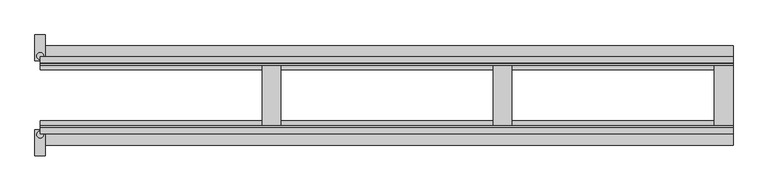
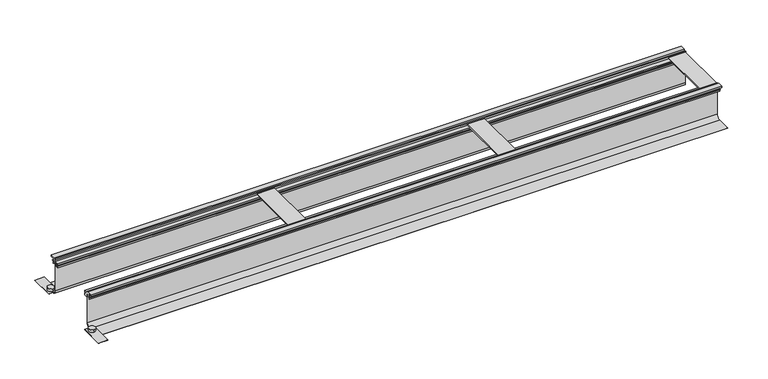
"""IFC4 building model written with IfcOpenShell, lengths in millimetres: proxy geometry, Electrical_Installation_Hager_BKF-Trunking-System-With-Flexible-Screed-Casing-For-Dry-Cleaned-Floors : Nominal Size 250  Length 2.4 m."""

from ifc_helpers import new_model, si_unit, point, frame, frame_2d, origin, place, context, project, spatial, polyline, circle_curve, trimmed, segment, composite_curve, outline, extrude, source, transform, mapped, element, save


def electrical_fixtures_4151214e(model_context):
    return source(origin(), model_context, "Body", "SweptSolid", [
        extrude(outline(composite_curve([segment(trimmed(circle_curve(frame_2d((0.0, 136.1652527)), 12.0), [point((0.0, 148.1652527))], [point((0.0, 124.1652527))], False, "CARTESIAN"), True, "CONTINUOUS"), segment(trimmed(circle_curve(frame_2d((0.0, 136.1652527)), 12.0), [point((0.0, 124.1652527))], [point((0.0, 148.1652527))], False, "CARTESIAN"), True, "CONTINUOUS")], self_intersect=False)), frame((0.0, 0.0, -129.7), z_axis=(0.0, 0.0, 1.0), x_axis=(1.0, 0.0, 0.0)), (0.0, 0.0, 1.0), 10.7),
        extrude(outline(composite_curve([segment(trimmed(circle_curve(frame_2d((0.0, -136.112037)), 12.0), [point((0.0, -124.112037))], [point((0.0, -148.112037))], False, "CARTESIAN"), True, "CONTINUOUS"), segment(trimmed(circle_curve(frame_2d((0.0, -136.112037)), 12.0), [point((0.0, -148.112037))], [point((0.0, -124.112037))], False, "CARTESIAN"), True, "CONTINUOUS")], self_intersect=False)), frame((0.0, 0.0, -129.7), z_axis=(0.0, 0.0, 1.0), x_axis=(1.0, 0.0, 0.0)), (0.0, 0.0, 1.0), 10.7),
        extrude(outline(polyline([(18.0, 119.1), (-18.0, 119.1), (-18.0, 209.1), (18.0, 209.1), (18.0, 119.1)])), frame((0.0, 0.0, -131.2), z_axis=(0.0, 0.0, 1.0), x_axis=(1.0, 0.0, 0.0)), (0.0, 0.0, 1.0), 1.5),
        extrude(outline(polyline([(18.0, -209.1), (-18.0, -209.1), (-18.0, -119.1), (18.0, -119.1), (18.0, -209.1)])), frame((0.0, 0.0, -131.2), z_axis=(0.0, 0.0, 1.0), x_axis=(1.0, 0.0, 0.0)), (0.0, 0.0, 1.0), 1.5),
        extrude(outline(polyline([(2400.0, 105.0), (2400.0, -105.0), (2335.0, -105.0), (2335.0, 105.0), (2400.0, 105.0)])), frame((0.0, 0.0, 2.5), z_axis=(0.0, 0.0, 1.0), x_axis=(1.0, 0.0, 0.0)), (0.0, 0.0, 1.0), 4.2),
        extrude(outline(polyline([(1633.5851476, 104.8), (1633.5851476, -104.8), (1568.585332, -104.8), (1568.585332, 104.8), (1633.5851476, 104.8)])), frame((0.0, 0.0, 2.5), z_axis=(0.0, 0.0, 1.0), x_axis=(1.0, 0.0, 0.0)), (0.0, 0.0, 1.0), 4.2),
        extrude(outline(polyline([(833.5851476, 104.8), (833.5851476, -104.8), (768.585332, -104.8), (768.585332, 104.8), (833.5851476, 104.8)])), frame((0.0, 0.0, 2.5), z_axis=(0.0, 0.0, 1.0), x_axis=(1.0, 0.0, 0.0)), (0.0, 0.0, 1.0), 4.2),
        extrude(outline(polyline([(133.0, 6.7), (115.0, 6.7), (115.0, -2.5), (125.475, -2.5), (125.475, -4.0), (119.6, -4.0), (119.6, -14.0), (118.1, -14.0), (118.1, -4.0), (110.1, -4.0), (110.1, -10.1), (98.3, -10.1), (98.3, -14.0), (88.1, -14.0), (88.1, -6.6607064), (91.0, -6.6607064), (91.0, -12.5), (95.7, -12.5), (95.7, 0.5), (91.0, 0.5), (91.0, -2.1), (87.9910979, -2.1), (87.9910979, 2.5), (104.8, 2.5), (104.8, 10.0), (110.0, 10.0), (110.0, -0.5), (113.0, -0.5), (113.0, 13.0), (133.0, 13.0), (133.0, 6.7)])), frame((0.0, 0.0, 0.0), z_axis=(1.0, 0.0, 0.0), x_axis=(0.0, 1.0, 0.0)), (0.0, 0.0, 1.0), 2400.0),
        extrude(outline(polyline([(-133.0, 6.7), (-133.0, 13.0), (-113.0, 13.0), (-113.0, -0.5), (-110.0, -0.5), (-110.0, 10.0), (-104.8, 10.0), (-104.8, 2.5), (-87.9910979, 2.5), (-87.9910979, -2.1), (-91.0, -2.1), (-91.0, 0.5), (-95.7, 0.5), (-95.7, -12.5), (-91.0, -12.5), (-91.0, -6.6607064), (-88.1, -6.6607064), (-88.1, -14.0), (-98.3, -14.0), (-98.3, -10.1), (-110.1, -10.1), (-110.1, -4.0), (-118.1, -4.0), (-118.1, -14.0), (-119.6, -14.0), (-119.6, -4.0), (-125.475, -4.0), (-125.475, -2.5), (-115.0, -2.5), (-115.0, 6.7), (-133.0, 6.7)])), frame((0.0, 0.0, 0.0), z_axis=(1.0, 0.0, 0.0), x_axis=(0.0, 1.0, 0.0)), (0.0, 0.0, 1.0), 2400.0),
        extrude(outline(composite_curve([segment(polyline([(105.1407967, -1.2), (105.9257245, -1.2), (105.9257245, -116.2)]), True, "CONTINUOUS"), segment(trimmed(circle_curve(frame_2d((120.9257245, -116.2)), 15.0), [point((105.9257245, -116.2))], [point((120.9257245, -131.2))], True, "CARTESIAN"), True, "CONTINUOUS"), segment(polyline([(120.9257245, -131.2), (172.2934005, -131.2), (172.2934005, -131.9992624), (120.1407967, -131.9992624)]), True, "CONTINUOUS"), segment(trimmed(circle_curve(frame_2d((120.1407967, -116.9992624)), 15.0), [point((120.1407967, -131.9992624))], [point((105.1407967, -116.9992624))], False, "CARTESIAN"), True, "CONTINUOUS"), segment(polyline([(105.1407967, -116.9992624), (105.1407967, -1.2)]), True, "CONTINUOUS")], self_intersect=False)), frame((0.0, 0.0, 0.0), z_axis=(1.0, 0.0, 0.0), x_axis=(0.0, 1.0, 0.0)), (0.0, 0.0, 1.0), 2400.0),
        extrude(outline(composite_curve([segment(polyline([(-105.1407967, -1.2), (-105.1407967, -116.9992624)]), True, "CONTINUOUS"), segment(trimmed(circle_curve(frame_2d((-120.1407967, -116.9992624)), 15.0), [point((-105.1407967, -116.9992624))], [point((-120.1407967, -131.9992624))], False, "CARTESIAN"), True, "CONTINUOUS"), segment(polyline([(-120.1407967, -131.9992624), (-172.2934005, -131.9992624), (-172.2934005, -131.2), (-120.9257245, -131.2)]), True, "CONTINUOUS"), segment(trimmed(circle_curve(frame_2d((-120.9257245, -116.2)), 15.0), [point((-120.9257245, -131.2))], [point((-105.9257245, -116.2))], True, "CARTESIAN"), True, "CONTINUOUS"), segment(polyline([(-105.9257245, -116.2), (-105.9257245, -1.2), (-105.1407967, -1.2)]), True, "CONTINUOUS")], self_intersect=False)), frame((0.0, 0.0, 0.0), z_axis=(1.0, 0.0, 0.0), x_axis=(0.0, 1.0, 0.0)), (0.0, 0.0, 1.0), 2400.0),
    ])


if __name__ == "__main__":
    model = new_model("IFC4")
    model_context = context("Model", 3, world=origin())
    ifc_project = project(units=[si_unit("LENGTHUNIT", "METRE", prefix="MILLI")], contexts=[model_context])
    site = spatial("IfcSite", under=ifc_project)
    building = spatial("IfcBuilding", under=site)
    placement = place(None, origin())
    electrical_fixtures_shape = electrical_fixtures_4151214e(model_context)
    element("IfcBuildingElementProxy", 1, Name="Electrical_Installation_Hager_BKF-Trunking-System-With-Flexible-Screed-Casing-For-Dry-Cleaned-Floors : Nominal Size 250  Length 2.4 m", ObjectType="Electrical_Installation_Hager_BKF-Trunking-System-With-Flexible-Screed-Casing-For-Dry-Cleaned-Floors : Nominal Size 250  Length 2.4 m", at=placement, inside=building, context=model_context, shape_type="MappedRepresentation", body=[
        mapped(electrical_fixtures_shape, transform((0.0, 0.0, 0.0), x_axis=(1.0, 0.0, 0.0), y_axis=(0.0, 1.0, 0.0), z_axis=(0.0, 0.0, 1.0))),
    ])
    save(model, "model.ifc")
